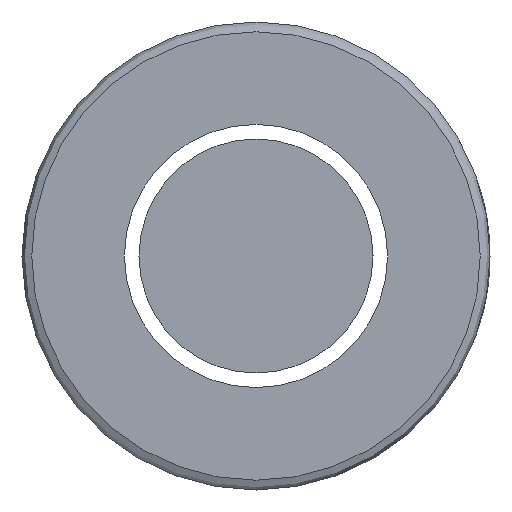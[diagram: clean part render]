
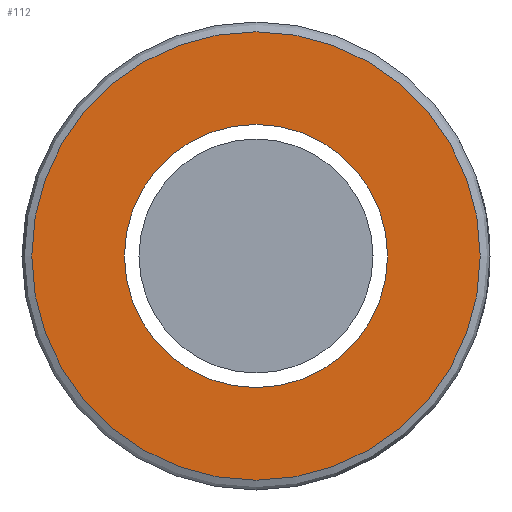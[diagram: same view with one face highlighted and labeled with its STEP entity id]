
A CAD part, left-side view. The second image highlights one B-rep face of the part: STEP entity #112.
In plain terms, the highlighted planar face has unit normal (-1, 0, 0).
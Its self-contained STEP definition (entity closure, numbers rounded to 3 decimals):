
#39 = EDGE_LOOP ( 'NONE', ( #274 ) ) ;
#52 = DIRECTION ( 'NONE',  ( 0., 0., -1. ) ) ;
#54 = CIRCLE ( 'NONE', #99, 6.75 ) ;
#58 = VERTEX_POINT ( 'NONE', #89 ) ;
#76 = PLANE ( 'NONE',  #155 ) ;
#89 = CARTESIAN_POINT ( 'NONE',  ( -50., 0., 11.5 ) ) ;
#99 = AXIS2_PLACEMENT_3D ( 'NONE', #135, #321, #52 ) ;
#112 = ADVANCED_FACE ( 'NONE', ( #293, #216 ), #76, .T. ) ;
#135 = CARTESIAN_POINT ( 'NONE',  ( -50., 0., 0. ) ) ;
#155 = AXIS2_PLACEMENT_3D ( 'NONE', #350, #319, #188 ) ;
#166 = EDGE_LOOP ( 'NONE', ( #343 ) ) ;
#169 = CARTESIAN_POINT ( 'NONE',  ( -50., 0., -6.75 ) ) ;
#188 = DIRECTION ( 'NONE',  ( 0., 0., 1. ) ) ;
#208 = EDGE_CURVE ( 'NONE', #58, #58, #237, .T. ) ;
#216 = FACE_BOUND ( 'NONE', #166, .T. ) ;
#217 = DIRECTION ( 'NONE',  ( -1., 0., 0. ) ) ;
#231 = EDGE_CURVE ( 'NONE', #338, #338, #54, .T. ) ;
#237 = CIRCLE ( 'NONE', #280, 11.5 ) ;
#274 = ORIENTED_EDGE ( 'NONE', *, *, #208, .T. ) ;
#280 = AXIS2_PLACEMENT_3D ( 'NONE', #294, #217, #351 ) ;
#293 = FACE_OUTER_BOUND ( 'NONE', #39, .T. ) ;
#294 = CARTESIAN_POINT ( 'NONE',  ( -50., 0., 0. ) ) ;
#319 = DIRECTION ( 'NONE',  ( -1., 0., 0. ) ) ;
#321 = DIRECTION ( 'NONE',  ( 1., 0., 0. ) ) ;
#338 = VERTEX_POINT ( 'NONE', #169 ) ;
#343 = ORIENTED_EDGE ( 'NONE', *, *, #231, .T. ) ;
#350 = CARTESIAN_POINT ( 'NONE',  ( -50., 12., 0. ) ) ;
#351 = DIRECTION ( 'NONE',  ( 0., 0., 1. ) ) ;
